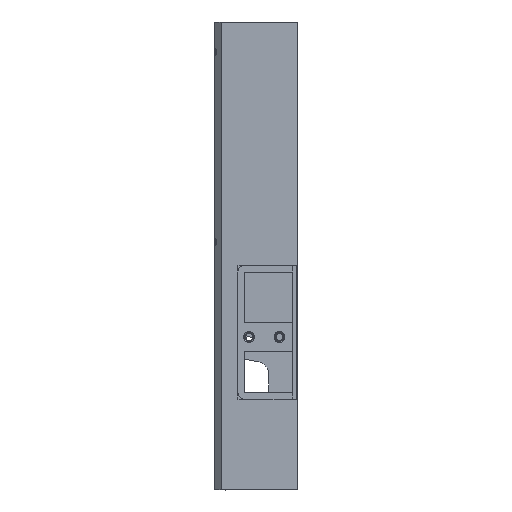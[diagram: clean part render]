
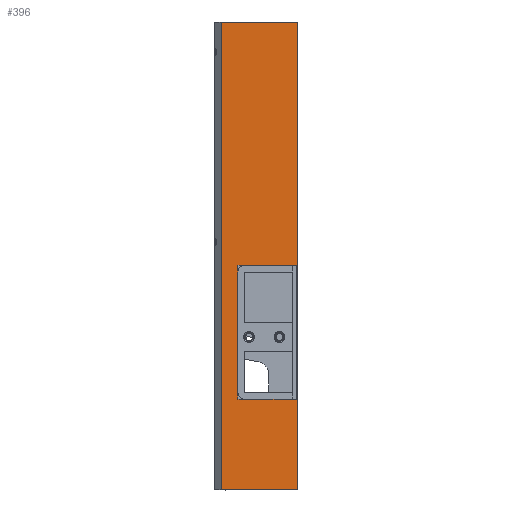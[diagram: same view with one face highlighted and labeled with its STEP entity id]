
A CAD part, left-side view. The second image highlights one B-rep face of the part: STEP entity #396.
In plain terms, the highlighted planar face has unit normal (-1, 0, 0).
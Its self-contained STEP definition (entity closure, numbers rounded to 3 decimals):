
#261=PLANE('',#6870);
#396=ADVANCED_FACE('',(#776),#261,.T.);
#776=FACE_OUTER_BOUND('',#1184,.F.);
#1184=EDGE_LOOP('',(#1875,#1876,#1877,#1878,#1879,#1880,#1881,#1882,#1883,
#1884,#1885,#1886));
#1875=ORIENTED_EDGE('',*,*,#4453,.T.);
#1876=ORIENTED_EDGE('',*,*,#4400,.F.);
#1877=ORIENTED_EDGE('',*,*,#4366,.T.);
#1878=ORIENTED_EDGE('',*,*,#4365,.T.);
#1879=ORIENTED_EDGE('',*,*,#4367,.T.);
#1880=ORIENTED_EDGE('',*,*,#4370,.T.);
#1881=ORIENTED_EDGE('',*,*,#4369,.T.);
#1882=ORIENTED_EDGE('',*,*,#4371,.T.);
#1883=ORIENTED_EDGE('',*,*,#4407,.T.);
#1884=ORIENTED_EDGE('',*,*,#4478,.F.);
#1885=ORIENTED_EDGE('',*,*,#4468,.F.);
#1886=ORIENTED_EDGE('',*,*,#4356,.T.);
#4356=EDGE_CURVE('',#6236,#6239,#5171,.T.);
#4365=EDGE_CURVE('',#6227,#6226,#5172,.T.);
#4366=EDGE_CURVE('',#6225,#6227,#5173,.T.);
#4367=EDGE_CURVE('',#6226,#6224,#5174,.T.);
#4369=EDGE_CURVE('',#6221,#6220,#5175,.T.);
#4370=EDGE_CURVE('',#6224,#6221,#5176,.T.);
#4371=EDGE_CURVE('',#6220,#6219,#5177,.T.);
#4400=EDGE_CURVE('',#6225,#6193,#5202,.T.);
#4407=EDGE_CURVE('',#6219,#6186,#5209,.T.);
#4453=EDGE_CURVE('',#6239,#6193,#5235,.T.);
#4468=EDGE_CURVE('',#6236,#6131,#5246,.T.);
#4478=EDGE_CURVE('',#6131,#6186,#5256,.T.);
#5171=LINE('',#10146,#5650);
#5172=LINE('',#10168,#5651);
#5173=LINE('',#10169,#5652);
#5174=LINE('',#10170,#5653);
#5175=LINE('',#10172,#5654);
#5176=LINE('',#10173,#5655);
#5177=LINE('',#10174,#5656);
#5202=LINE('',#10203,#5681);
#5209=LINE('',#10210,#5688);
#5235=LINE('',#10256,#5714);
#5246=LINE('',#10271,#5725);
#5256=LINE('',#10281,#5735);
#5650=VECTOR('',#7684,104.77);
#5651=VECTOR('',#7699,1.5);
#5652=VECTOR('',#7700,11.8);
#5653=VECTOR('',#7701,1.5);
#5654=VECTOR('',#7704,1.5);
#5655=VECTOR('',#7705,27.);
#5656=VECTOR('',#7706,1.5);
#5681=VECTOR('',#7739,54.469);
#5688=VECTOR('',#7746,11.8);
#5714=VECTOR('',#7812,17.05);
#5725=VECTOR('',#7831,17.05);
#5735=VECTOR('',#7841,20.301);
#6131=VERTEX_POINT('',#9600);
#6186=VERTEX_POINT('',#9655);
#6193=VERTEX_POINT('',#9662);
#6219=VERTEX_POINT('',#9688);
#6220=VERTEX_POINT('',#9689);
#6221=VERTEX_POINT('',#9690);
#6224=VERTEX_POINT('',#9693);
#6225=VERTEX_POINT('',#9694);
#6226=VERTEX_POINT('',#9695);
#6227=VERTEX_POINT('',#9696);
#6236=VERTEX_POINT('',#9705);
#6239=VERTEX_POINT('',#9708);
#6870=AXIS2_PLACEMENT_3D('',#10595,#8293,#8294);
#7684=DIRECTION('',(0.,0.,1.));
#7699=DIRECTION('',(0.,1.,0.));
#7700=DIRECTION('',(0.,1.,0.));
#7701=DIRECTION('',(0.,0.,-1.));
#7704=DIRECTION('',(0.,0.,-1.));
#7705=DIRECTION('',(0.,0.,-1.));
#7706=DIRECTION('',(0.,-1.,0.));
#7739=DIRECTION('',(0.,0.,1.));
#7746=DIRECTION('',(0.,-1.,0.));
#7812=DIRECTION('',(0.,-1.,0.));
#7831=DIRECTION('',(0.,-1.,0.));
#7841=DIRECTION('',(0.,0.,1.));
#8293=DIRECTION('',(-1.,0.,0.));
#8294=DIRECTION('',(0.,-1.,0.));
#9600=CARTESIAN_POINT('',(-21.75,-18.5,0.));
#9655=CARTESIAN_POINT('',(-21.75,-18.5,20.301));
#9662=CARTESIAN_POINT('',(-21.75,-18.5,104.77));
#9688=CARTESIAN_POINT('',(-21.75,-6.7,20.301));
#9689=CARTESIAN_POINT('',(-21.75,-5.2,20.301));
#9690=CARTESIAN_POINT('',(-21.75,-5.2,21.801));
#9693=CARTESIAN_POINT('',(-21.75,-5.2,48.801));
#9694=CARTESIAN_POINT('',(-21.75,-18.5,50.301));
#9695=CARTESIAN_POINT('',(-21.75,-5.2,50.301));
#9696=CARTESIAN_POINT('',(-21.75,-6.7,50.301));
#9705=CARTESIAN_POINT('',(-21.75,-1.45,0.));
#9708=CARTESIAN_POINT('',(-21.75,-1.45,104.77));
#10146=CARTESIAN_POINT('',(-21.75,-1.45,0.));
#10168=CARTESIAN_POINT('',(-21.75,-6.7,50.301));
#10169=CARTESIAN_POINT('',(-21.75,-18.5,50.301));
#10170=CARTESIAN_POINT('',(-21.75,-5.2,50.301));
#10172=CARTESIAN_POINT('',(-21.75,-5.2,21.801));
#10173=CARTESIAN_POINT('',(-21.75,-5.2,48.801));
#10174=CARTESIAN_POINT('',(-21.75,-5.2,20.301));
#10203=CARTESIAN_POINT('',(-21.75,-18.5,50.301));
#10210=CARTESIAN_POINT('',(-21.75,-6.7,20.301));
#10256=CARTESIAN_POINT('',(-21.75,-1.45,104.77));
#10271=CARTESIAN_POINT('',(-21.75,-1.45,0.));
#10281=CARTESIAN_POINT('',(-21.75,-18.5,0.));
#10595=CARTESIAN_POINT('',(-21.75,-0.402,-1.048));
